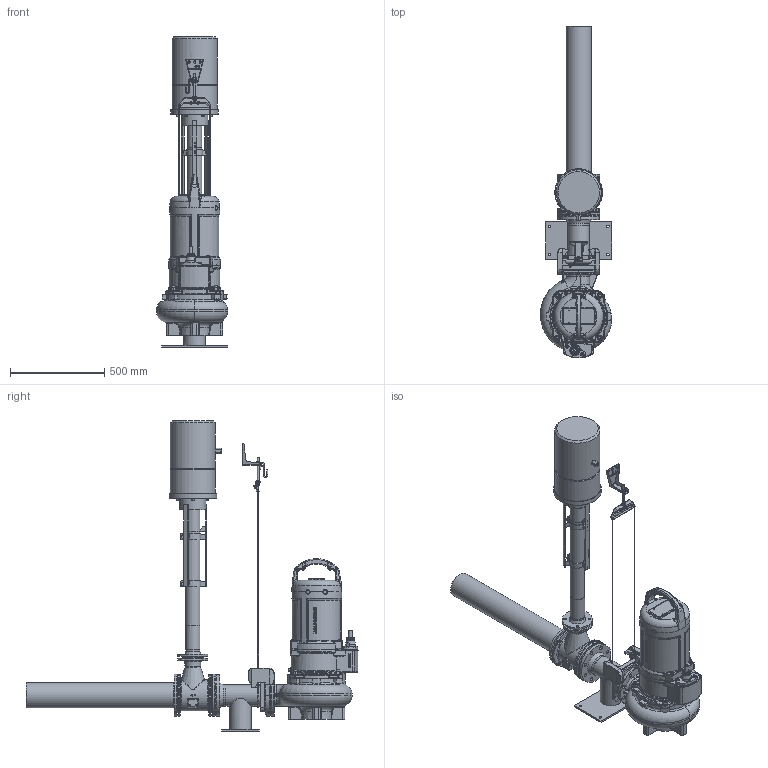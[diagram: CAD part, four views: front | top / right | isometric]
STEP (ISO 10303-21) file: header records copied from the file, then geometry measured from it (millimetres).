
FILE_DESCRIPTION(/* description */ (''),/* implementation_level */ '2;1');
FILE_NAME(/* name */ 'H:\3D\Projekte\@Wirbeljet\700 Amajet_2021_step\SewerAmajet_V_Wire_KA_16.stp',/* time_stamp */ '2021-04-12T22:42:54+02:00',/* author */ ('emmrpat'),/* organization */ (''),/* preprocessor_version */ 'ST-DEVELOPER v18',/* originating_system */ 'Autodesk Inventor 2020',/* authorisation */ '');
FILE_SCHEMA (('AUTOMOTIVE_DESIGN { 1 0 10303 214 3 1 1 }'));
Length unit declared in the file: millimetre
Products named in the file (46): SewerAmajet_V_Wire_KA_13; Dichtung1_DN100_5mm; Flansch_0W308059; 0W308365_Vari_01_Duese; Strahlrohr_133mm_800mm; 0W308365_Vari_01_Duese_1; Dichtung_DN100_5mm; Dichtung_DN65_4mm_110; 0W308366_800mm_Belueftung; 0W308366_800mm_Rohr; Vorschweißflansch_DN65_PN6; 0W382247_Mischkammer; VX-Stuetzfuss; Halterung KRT100-; KRT_100-250; UG155595214_01; ug1004874zmn001_01; ug1004383zmn001_01; ug1510147zmk001_01_BODY; ug1510095zmk001_01; ug1510137zmk001_01; ug1510136zmk001_01; ug1510110zmk001_01; UG154735011ZMM001_02; UG153885001ZMM001_01; ug1012584zmn001_01; ug1002091zmn001_01; UG154911611ZMM001_04; ISO 4032 - M16; ISO 7089 -  16; DIN 835 - M16 x 50; Konsole_165mm_VX-Aufstellung; Hubmagnet; 01; 06; 08; 02; 03; 05; 04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
Assembly tree (88 placements, depth 4):
  SewerAmajet_V_Wire_KA_13
    Dichtung1_DN100_5mm
    Flansch_0W308059
    Dichtung_DN100_5mm  x2
    0W308365_Vari_01_Duese
    Strahlrohr_133mm_800mm
    0W308365_Vari_01_Duese_1
    Dichtung_DN65_4mm_110
    0W308366_800mm_Belueftung
      0W308366_800mm_Rohr
      Vorschweißflansch_DN65_PN6
    0W382247_Mischkammer
    VX-Stuetzfuss
    Halterung KRT100-
    KRT_100-250
    UG155595214_01
      ug1004874zmn001_01  x4
      ug1004383zmn001_01  x2
      ug1510147zmk001_01_BODY
        ug1510095zmk001_01
        ug1510137zmk001_01  x12
        ug1510136zmk001_01
        ug1510110zmk001_01
      UG154735011ZMM001_02
      UG153885001ZMM001_01
      ug1012584zmn001_01
      ug1002091zmn001_01
      UG154911611ZMM001_04
      ISO 4032 - M16  x4
      ISO 7089 -  16  x4
      DIN 835 - M16 x 50  x4
    Konsole_165mm_VX-Aufstellung
    Hubmagnet
      01
      06
      08
      02  x3
      03  x2
      05  x4
      04  x6
      07
      ISO 4017 - M10 x 35  x2
      ISO 4032 - M10  x2
      ISO 4032 - M8  x6
      Hubmagnet_1
      Rohr_DN65_1000mm
Bounding box: 378.15 x 1763.2 x 1647.58 mm (x, y, z)
Volume: 43326108 mm3; surface area: 5909068 mm2
Topology: 93 solids, 95 shells, 3542 faces, 8649 edges, 5362 vertices
Faces by surface type: plane 1229, cylinder 965, bspline 691, torus 340, cone 219, sphere 98
Full cylindrical faces by diameter (mm): 3 x12, 3.05 x2, 3.3 x1, 4 x20, 5 x25, 6 x13, 6.647 x6, 6.8 x1, 7 x24, 8 x11, 8.376 x2, 8.5 x6, 9.5 x6, 10 x12, 11 x10, 12 x13, 13 x4, 13.835 x10, 14 x8, 14.63 x2, 15.25 x1, 16 x15, 16.662 x1, 17 x4, 17.1 x1, 17.5 x4, 18 x27, 22 x1, 23 x1, 30 x5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
Entity records: 138398 total; most frequent: CARTESIAN_POINT 61763, ORIENTED_EDGE 15550, DIRECTION 15089, EDGE_CURVE 7775, AXIS2_PLACEMENT_3D 6162, VERTEX_POINT 4867, EDGE_LOOP 3612, CIRCLE 3287
